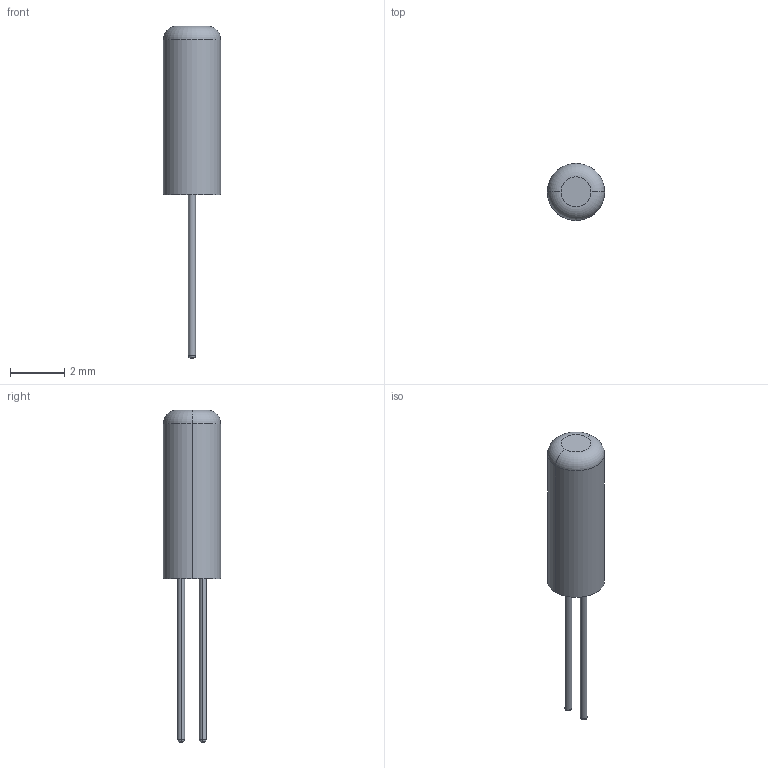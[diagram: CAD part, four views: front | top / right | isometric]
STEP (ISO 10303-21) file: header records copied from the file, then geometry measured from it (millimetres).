
FILE_DESCRIPTION (( 'STEP AP214' ), '1' );
FILE_NAME ('AB26T-32.768KHZ.STEP', '2022-03-18T09:05:24', ( '' ), ( '' ), 'SwSTEP 2.0', 'SolidWorks 2018', '' );
FILE_SCHEMA (( 'AUTOMOTIVE_DESIGN' ));
Length unit declared in the file: millimetre
Products named in the file (1): AB26T-32.768KHZ
Bounding box: 2.1 x 2.1 x 12.2 mm (x, y, z)
Volume: 21.8 mm3; surface area: 56 mm2
Topology: 1 solids, 1 shells, 16 faces, 30 edges, 18 vertices
Faces by surface type: torus 6, cylinder 6, plane 4
Entity records: 620 total; most frequent: DIRECTION 88, CARTESIAN_POINT 65, ORIENTED_EDGE 60, AXIS2_PLACEMENT_3D 41, EDGE_CURVE 30, CIRCLE 24, UNCERTAINTY_MEASURE_WITH_UNIT 19, SURFACE_STYLE_USAGE 18
